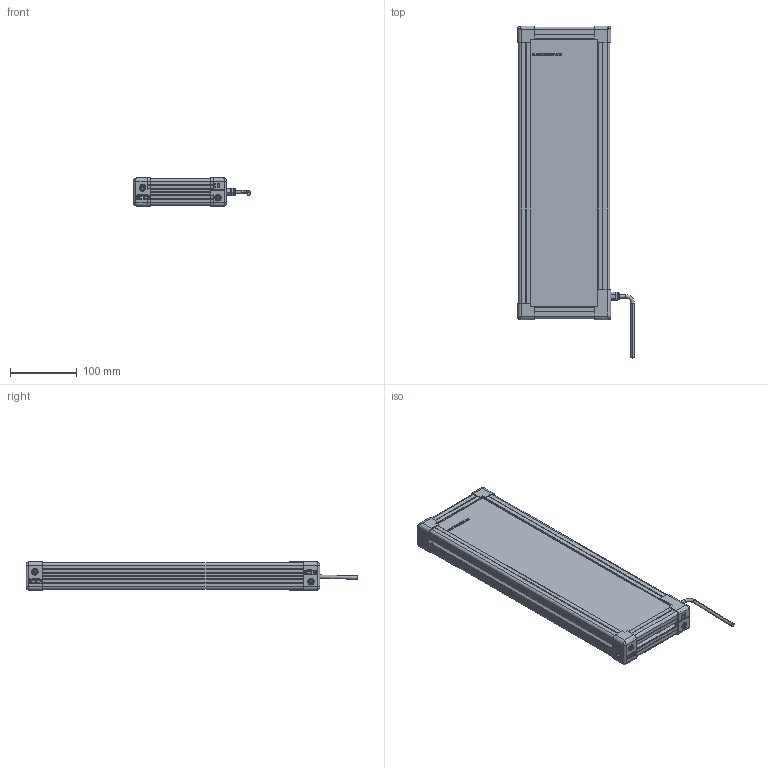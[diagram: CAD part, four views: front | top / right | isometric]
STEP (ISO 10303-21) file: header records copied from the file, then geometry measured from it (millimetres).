
FILE_DESCRIPTION (( 'STEP AP214' ), '1' );
FILE_NAME ('EFFI-BL-100-400-ZZZ 1x M12.STEP', '2021-06-18T09:19:08', ( '' ), ( '' ), 'SwSTEP 2.0', 'SolidWorks 2021', '' );
FILE_SCHEMA (( 'AUTOMOTIVE_DESIGN' ));
Length unit declared in the file: millimetre
Products named in the file (9): profile Y_PERCE; EFFI-BL-100-400-ZZZ 1x M12; petite joue + vis; grande joue; profile X_PERCE; petite joue; 000629; Pièce13^EFFI-BL-XXX-YYY-ZZZ -1M12; cordon_Avec cable
Assembly tree (15 placements, depth 3):
  EFFI-BL-100-400-ZZZ 1x M12
    profile X_PERCE  x2
    profile Y_PERCE  x2
    Pièce13^EFFI-BL-XXX-YYY-ZZZ -1M12
    petite joue + vis  x3
      petite joue
      000629
    000629  x2
    grande joue
    cordon_Avec cable
Bounding box: 174.15 x 496.14 x 43.2 mm (x, y, z)
Volume: 2091380.2 mm3; surface area: 302895.7 mm2
Topology: 17 solids, 23 shells, 3485 faces, 9341 edges, 6182 vertices
Faces by surface type: plane 2315, cylinder 592, bspline 552, cone 16, torus 10
Entity records: 67108 total; most frequent: CARTESIAN_POINT 27533, ORIENTED_EDGE 8416, DIRECTION 6619, EDGE_CURVE 4212, VECTOR 3319, LINE 3319, VERTEX_POINT 2799, EDGE_LOOP 1757
